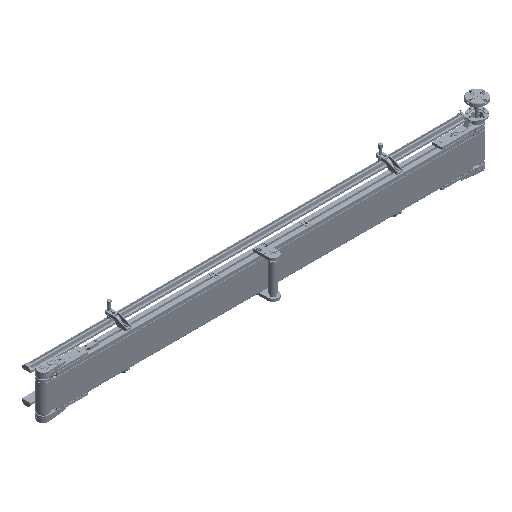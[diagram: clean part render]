
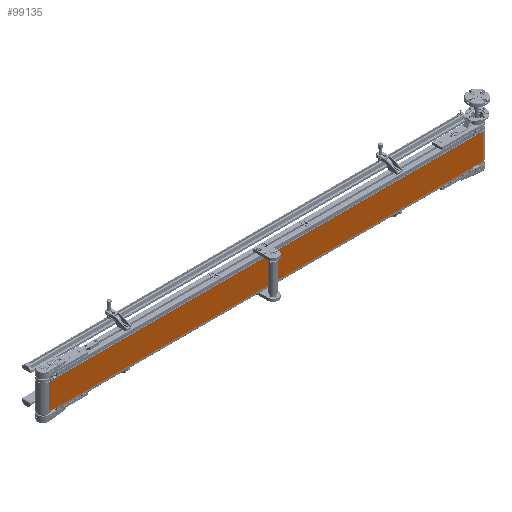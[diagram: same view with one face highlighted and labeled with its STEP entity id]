
A CAD part, isometric view. The second image highlights one B-rep face of the part: STEP entity #99135.
In plain terms, the highlighted planar face has unit normal (0, -1, 0).
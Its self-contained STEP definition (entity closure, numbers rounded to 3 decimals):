
#1019 = VECTOR ( 'NONE', #74744, 1000. ) ;
#1295 = CARTESIAN_POINT ( 'NONE',  ( -1000., -27., -60. ) ) ;
#1427 = LINE ( 'NONE', #122778, #118943 ) ;
#8802 = ORIENTED_EDGE ( 'NONE', *, *, #136298, .T. ) ;
#17317 = AXIS2_PLACEMENT_3D ( 'NONE', #30448, #79198, #105515 ) ;
#26121 = DIRECTION ( 'NONE',  ( 0., 0., -1. ) ) ;
#28892 = VECTOR ( 'NONE', #78238, 1000. ) ;
#30448 = CARTESIAN_POINT ( 'NONE',  ( -1000., -27., 60. ) ) ;
#33623 = EDGE_CURVE ( 'NONE', #107560, #151641, #124209, .T. ) ;
#42801 = CARTESIAN_POINT ( 'NONE',  ( -1000., -27., 60. ) ) ;
#45199 = CARTESIAN_POINT ( 'NONE',  ( -1000., -27., 60. ) ) ;
#47495 = EDGE_LOOP ( 'NONE', ( #82552, #80413, #129348, #8802 ) ) ;
#56354 = DIRECTION ( 'NONE',  ( 1., 0., 0. ) ) ;
#58928 = VECTOR ( 'NONE', #56354, 1000. ) ;
#74744 = DIRECTION ( 'NONE',  ( 1., 0., 0. ) ) ;
#78238 = DIRECTION ( 'NONE',  ( 0., 0., -1. ) ) ;
#79198 = DIRECTION ( 'NONE',  ( 0., 1., 0. ) ) ;
#80413 = ORIENTED_EDGE ( 'NONE', *, *, #86314, .F. ) ;
#82113 = CARTESIAN_POINT ( 'NONE',  ( 1000., -27., 60. ) ) ;
#82552 = ORIENTED_EDGE ( 'NONE', *, *, #33623, .T. ) ;
#82766 = LINE ( 'NONE', #45199, #28892 ) ;
#86314 = EDGE_CURVE ( 'NONE', #106890, #151641, #1427, .T. ) ;
#91293 = CARTESIAN_POINT ( 'NONE',  ( 1000., -27., -60. ) ) ;
#99135 = ADVANCED_FACE ( 'NONE', ( #114326 ), #117445, .F. ) ;
#105515 = DIRECTION ( 'NONE',  ( 0., 0., 1. ) ) ;
#106171 = VERTEX_POINT ( 'NONE', #147837 ) ;
#106890 = VERTEX_POINT ( 'NONE', #82113 ) ;
#107560 = VERTEX_POINT ( 'NONE', #135878 ) ;
#114326 = FACE_OUTER_BOUND ( 'NONE', #47495, .T. ) ;
#117445 = PLANE ( 'NONE',  #17317 ) ;
#118943 = VECTOR ( 'NONE', #26121, 1000. ) ;
#122778 = CARTESIAN_POINT ( 'NONE',  ( 1000., -27., 60. ) ) ;
#124209 = LINE ( 'NONE', #1295, #1019 ) ;
#129348 = ORIENTED_EDGE ( 'NONE', *, *, #156935, .F. ) ;
#135878 = CARTESIAN_POINT ( 'NONE',  ( -1000., -27., -60. ) ) ;
#136298 = EDGE_CURVE ( 'NONE', #106171, #107560, #82766, .T. ) ;
#147837 = CARTESIAN_POINT ( 'NONE',  ( -1000., -27., 60. ) ) ;
#151405 = LINE ( 'NONE', #42801, #58928 ) ;
#151641 = VERTEX_POINT ( 'NONE', #91293 ) ;
#156935 = EDGE_CURVE ( 'NONE', #106171, #106890, #151405, .T. ) ;
